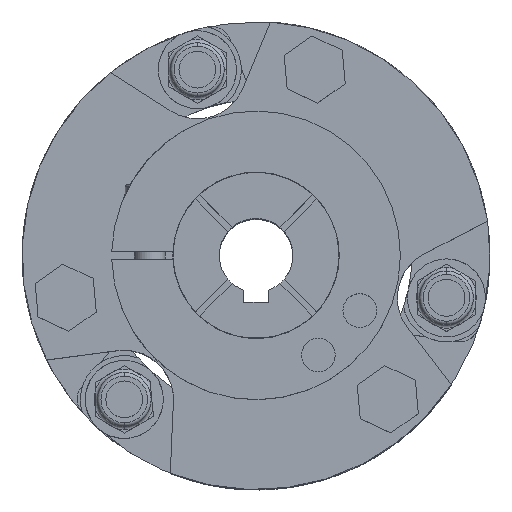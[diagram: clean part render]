
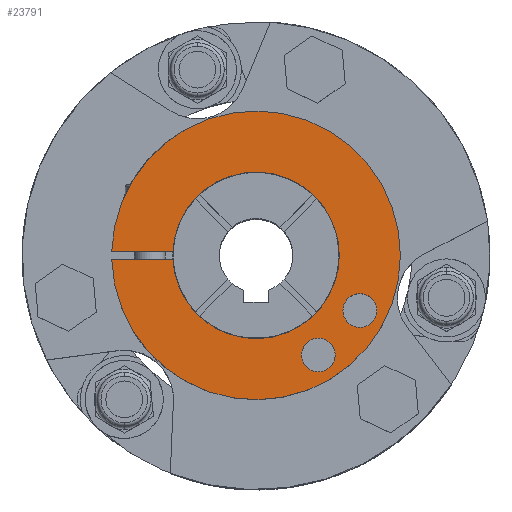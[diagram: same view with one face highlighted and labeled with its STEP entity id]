
A CAD part, top view. The second image highlights one B-rep face of the part: STEP entity #23791.
In plain terms, the highlighted planar face has unit normal (0, 0, 1).
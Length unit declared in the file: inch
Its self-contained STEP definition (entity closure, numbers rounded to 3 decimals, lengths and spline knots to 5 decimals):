
#10784=CARTESIAN_POINT('',(0.,0.,3.6435));
#10785=DIRECTION('',(0.,0.,1.));
#10786=DIRECTION('',(-1.,-0.027,0.));
#10787=AXIS2_PLACEMENT_3D('',#10784,#10785,#10786);
#10919=DIRECTION('',(1.,0.,0.));
#10920=VECTOR('',#10919,0.78374);
#10921=CARTESIAN_POINT('',(-1.84982,-0.05,3.6435));
#10922=LINE('',#10921,#10920);
#10926=CARTESIAN_POINT('',(0.,0.,3.6435));
#10927=DIRECTION('',(0.,0.,1.));
#10928=DIRECTION('',(-0.999,-0.047,0.));
#10929=AXIS2_PLACEMENT_3D('',#10926,#10927,#10928);
#10934=CARTESIAN_POINT('',(0.,0.,3.6435));
#10935=DIRECTION('',(0.,0.,1.));
#10936=DIRECTION('',(1.,0.,0.));
#10937=AXIS2_PLACEMENT_3D('',#10934,#10935,#10936);
#10942=DIRECTION('',(-1.,0.,0.));
#10943=VECTOR('',#10942,0.78374);
#10944=CARTESIAN_POINT('',(-1.06608,0.05,3.6435));
#10945=LINE('',#10944,#10943);
#10949=CARTESIAN_POINT('',(0.79822,-1.27783,3.6435));
#10950=DIRECTION('',(0.,0.,1.));
#10951=DIRECTION('',(1.,0.,0.));
#10952=AXIS2_PLACEMENT_3D('',#10949,#10950,#10951);
#10957=CARTESIAN_POINT('',(0.79822,-1.27783,3.6435));
#10958=DIRECTION('',(0.,0.,1.));
#10959=DIRECTION('',(-1.,0.,0.));
#10960=AXIS2_PLACEMENT_3D('',#10957,#10958,#10959);
#10965=CARTESIAN_POINT('',(1.33025,-0.7074,3.6435));
#10966=DIRECTION('',(0.,0.,1.));
#10967=DIRECTION('',(1.,0.,0.));
#10968=AXIS2_PLACEMENT_3D('',#10965,#10966,#10967);
#10973=CARTESIAN_POINT('',(1.33025,-0.7074,3.6435));
#10974=DIRECTION('',(0.,0.,1.));
#10975=DIRECTION('',(-1.,0.,0.));
#10976=AXIS2_PLACEMENT_3D('',#10973,#10974,#10975);
#13052=CARTESIAN_POINT('',(1.06725,0.,3.6435));
#13054=VERTEX_POINT('',#13052);
#13124=CARTESIAN_POINT('',(-1.84982,0.05,3.6435));
#13125=VERTEX_POINT('',#13124);
#13126=CARTESIAN_POINT('',(-1.84982,-0.05,3.6435));
#13127=VERTEX_POINT('',#13126);
#13132=CARTESIAN_POINT('',(-1.06608,-0.05,3.6435));
#13133=VERTEX_POINT('',#13132);
#13134=CARTESIAN_POINT('',(-1.06608,0.05,3.6435));
#13135=VERTEX_POINT('',#13134);
#13394=CARTESIAN_POINT('',(1.01472,-1.27783,3.6435));
#13395=CARTESIAN_POINT('',(0.58172,-1.27783,3.6435));
#13396=VERTEX_POINT('',#13394);
#13397=VERTEX_POINT('',#13395);
#13398=CARTESIAN_POINT('',(1.54675,-0.7074,3.6435));
#13399=CARTESIAN_POINT('',(1.11375,-0.7074,3.6435));
#13400=VERTEX_POINT('',#13398);
#13401=VERTEX_POINT('',#13399);
#23764=CARTESIAN_POINT('',(0.,0.,3.6435));
#23765=DIRECTION('',(0.,0.,1.));
#23766=DIRECTION('',(1.,0.,0.));
#23767=AXIS2_PLACEMENT_3D('',#23764,#23765,#23766);
#23768=PLANE('',#23767);
#23769=ORIENTED_EDGE('',*,*,#23745,.F.);
#23770=ORIENTED_EDGE('',*,*,#23670,.T.);
#23772=ORIENTED_EDGE('',*,*,#23771,.T.);
#23774=ORIENTED_EDGE('',*,*,#23773,.T.);
#23776=ORIENTED_EDGE('',*,*,#23775,.T.);
#23777=EDGE_LOOP('',(#23769,#23770,#23772,#23774,#23776));
#23778=FACE_OUTER_BOUND('',#23777,.F.);
#23780=ORIENTED_EDGE('',*,*,#23779,.T.);
#23782=ORIENTED_EDGE('',*,*,#23781,.T.);
#23783=EDGE_LOOP('',(#23780,#23782));
#23784=FACE_BOUND('',#23783,.F.);
#23786=ORIENTED_EDGE('',*,*,#23785,.T.);
#23788=ORIENTED_EDGE('',*,*,#23787,.T.);
#23789=EDGE_LOOP('',(#23786,#23788));
#23790=FACE_BOUND('',#23789,.F.);
#10788=CIRCLE('',#10787,1.8505);
#10930=CIRCLE('',#10929,1.06725);
#10938=CIRCLE('',#10937,1.06725);
#10953=CIRCLE('',#10952,0.2165);
#10961=CIRCLE('',#10960,0.2165);
#10969=CIRCLE('',#10968,0.2165);
#10977=CIRCLE('',#10976,0.2165);
#23670=EDGE_CURVE('',#13127,#13133,#10922,.T.);
#23745=EDGE_CURVE('',#13127,#13125,#10788,.T.);
#23771=EDGE_CURVE('',#13133,#13054,#10930,.T.);
#23773=EDGE_CURVE('',#13054,#13135,#10938,.T.);
#23775=EDGE_CURVE('',#13135,#13125,#10945,.T.);
#23779=EDGE_CURVE('',#13396,#13397,#10953,.T.);
#23781=EDGE_CURVE('',#13397,#13396,#10961,.T.);
#23785=EDGE_CURVE('',#13400,#13401,#10969,.T.);
#23787=EDGE_CURVE('',#13401,#13400,#10977,.T.);
#23791=ADVANCED_FACE('',(#23778,#23784,#23790),#23768,.T.);
